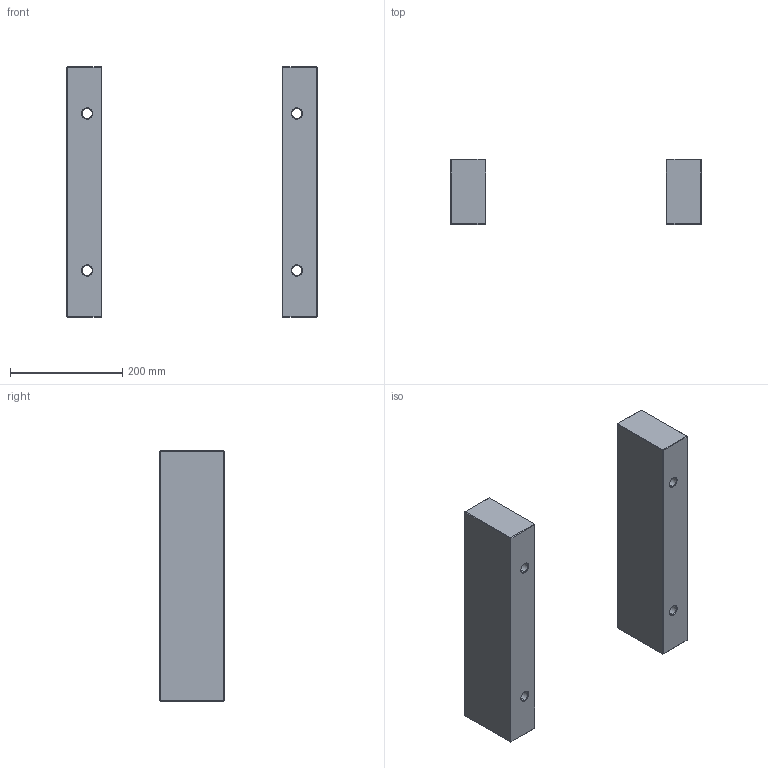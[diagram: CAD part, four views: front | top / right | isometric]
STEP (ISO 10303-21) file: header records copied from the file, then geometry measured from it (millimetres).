
FILE_DESCRIPTION (( 'STEP AP214' ), '1' );
FILE_NAME ('ESP-446X446x116.STEP', '2020-04-14T08:55:52', ( 'August' ), ( '' ), 'SwSTEP 2.0', 'SolidWorks 2018', '' );
FILE_SCHEMA (( 'AUTOMOTIVE_DESIGN' ));
Length unit declared in the file: millimetre
Products named in the file (1): ESP-446X446x116
Bounding box: 446 x 116 x 446 mm (x, y, z)
Volume: 6294470.5 mm3; surface area: 367338 mm2
Topology: 2 solids, 2 shells, 76 faces, 152 edges, 80 vertices
Faces by surface type: plane 52, cone 16, cylinder 8
Entity records: 1935 total; most frequent: DIRECTION 338, CARTESIAN_POINT 309, ORIENTED_EDGE 304, EDGE_CURVE 152, LINE 120, VECTOR 120, AXIS2_PLACEMENT_3D 109, EDGE_LOOP 84
